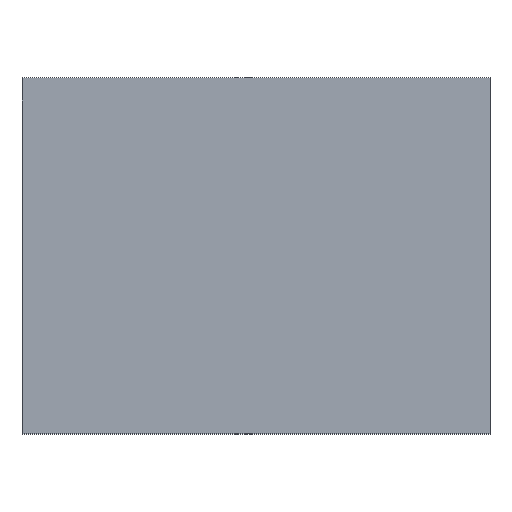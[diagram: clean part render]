
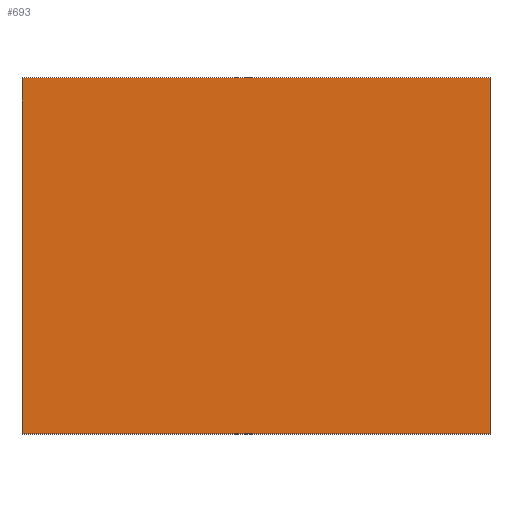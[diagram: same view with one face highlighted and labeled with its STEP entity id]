
A CAD part, top view. The second image highlights one B-rep face of the part: STEP entity #693.
In plain terms, the highlighted planar face has unit normal (0, 0, 1).
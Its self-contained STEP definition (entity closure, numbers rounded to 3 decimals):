
#12 = CARTESIAN_POINT ( 'NONE',  ( 0., 0., 12.5 ) ) ;
#47 = EDGE_LOOP ( 'NONE', ( #945, #269, #715, #858 ) ) ;
#87 = PLANE ( 'NONE',  #719 ) ;
#199 = DIRECTION ( 'NONE',  ( -1., 0., 0. ) ) ;
#242 = DIRECTION ( 'NONE',  ( 1., 0., 0. ) ) ;
#269 = ORIENTED_EDGE ( 'NONE', *, *, #315, .T. ) ;
#270 = VECTOR ( 'NONE', #242, 1000. ) ;
#309 = LINE ( 'NONE', #708, #507 ) ;
#315 = EDGE_CURVE ( 'NONE', #1023, #612, #664, .T. ) ;
#319 = EDGE_CURVE ( 'NONE', #776, #848, #561, .T. ) ;
#403 = DIRECTION ( 'NONE',  ( -1., 0., 0. ) ) ;
#417 = DIRECTION ( 'NONE',  ( 0., 0., -1. ) ) ;
#421 = CARTESIAN_POINT ( 'NONE',  ( 0., 38., 12.5 ) ) ;
#475 = CARTESIAN_POINT ( 'NONE',  ( 50., 0., 12.5 ) ) ;
#489 = DIRECTION ( 'NONE',  ( 0., -1., 0. ) ) ;
#500 = LINE ( 'NONE', #833, #668 ) ;
#507 = VECTOR ( 'NONE', #1046, 1000. ) ;
#561 = LINE ( 'NONE', #900, #921 ) ;
#573 = EDGE_CURVE ( 'NONE', #612, #776, #309, .T. ) ;
#612 = VERTEX_POINT ( 'NONE', #475 ) ;
#664 = LINE ( 'NONE', #670, #270 ) ;
#668 = VECTOR ( 'NONE', #489, 1000. ) ;
#670 = CARTESIAN_POINT ( 'NONE',  ( 0., 0., 12.5 ) ) ;
#693 = ADVANCED_FACE ( 'NONE', ( #744 ), #87, .F. ) ;
#708 = CARTESIAN_POINT ( 'NONE',  ( 50., 0., 12.5 ) ) ;
#715 = ORIENTED_EDGE ( 'NONE', *, *, #573, .T. ) ;
#719 = AXIS2_PLACEMENT_3D ( 'NONE', #12, #417, #403 ) ;
#734 = EDGE_CURVE ( 'NONE', #848, #1023, #500, .T. ) ;
#744 = FACE_OUTER_BOUND ( 'NONE', #47, .T. ) ;
#776 = VERTEX_POINT ( 'NONE', #899 ) ;
#802 = CARTESIAN_POINT ( 'NONE',  ( 0., 0., 12.5 ) ) ;
#833 = CARTESIAN_POINT ( 'NONE',  ( 0., 0., 12.5 ) ) ;
#848 = VERTEX_POINT ( 'NONE', #421 ) ;
#858 = ORIENTED_EDGE ( 'NONE', *, *, #319, .T. ) ;
#899 = CARTESIAN_POINT ( 'NONE',  ( 50., 38., 12.5 ) ) ;
#900 = CARTESIAN_POINT ( 'NONE',  ( 0., 38., 12.5 ) ) ;
#921 = VECTOR ( 'NONE', #199, 1000. ) ;
#945 = ORIENTED_EDGE ( 'NONE', *, *, #734, .T. ) ;
#1023 = VERTEX_POINT ( 'NONE', #802 ) ;
#1046 = DIRECTION ( 'NONE',  ( 0., 1., 0. ) ) ;
